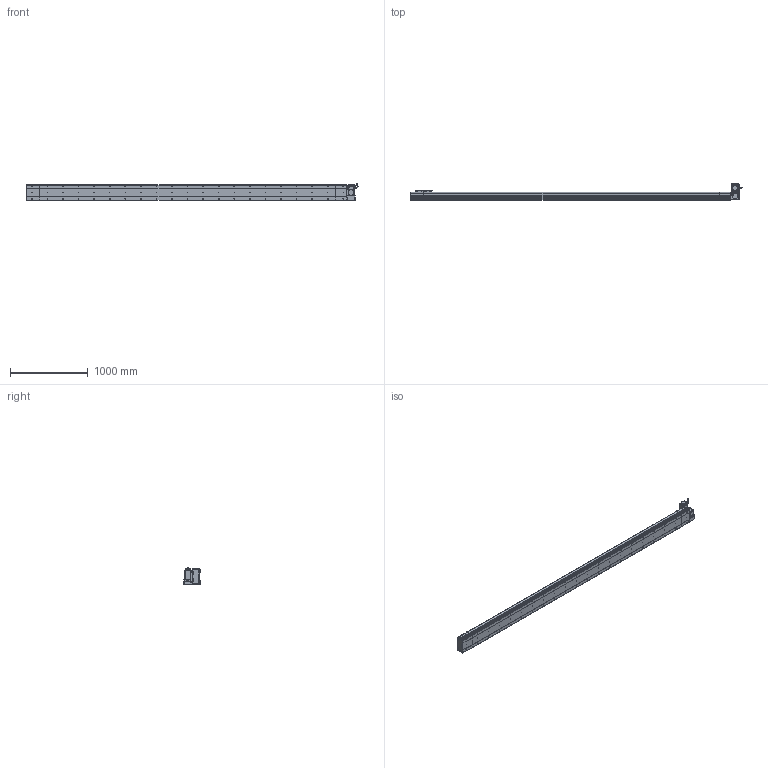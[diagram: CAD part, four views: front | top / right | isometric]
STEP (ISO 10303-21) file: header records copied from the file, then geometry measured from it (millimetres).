
FILE_DESCRIPTION (( 'STEP AP214' ), '1' );
FILE_NAME ('D20 CBH RT S3800.STEP', '2010-06-30T11:10:08', ( 'Conseil Régional Haute-Normandie' ), ( 'Conseil Régional Haute-Normandie' ), 'SwSTEP 2.0', 'SolidWorks 2010', '' );
FILE_SCHEMA (( 'AUTOMOTIVE_DESIGN' ));
Length unit declared in the file: millimetre
Products named in the file (31): Corp S3800_Default; Couvercle_Default; Chariot D20_Default; Support Chariot D20_Default; Couvercle S3800_Default; Rondelle Cache D20 RT_Default; Cache Support Moteur RT_Default; Corp D20 S3800_Default; vis M5 L47_Default; codeur 90BLDC125-640; Conecteur2_Default; Conecteur_Default; ecrou_Default; vis M5 L30_Default; Tail D20_Default; D20 CBH RT S3800; Corp Tail D20 RT_Default; Head RT_Default; Couvercle RT_Default; Plaque De Serrage D20 RT_Default; Plaque de Bout Head D20 RT_Default; Plaque de Bout Tail D20_Default; Plaque De Serrage D20_Default; vis M5 L15_Default; Moteur motionking 90BLDC125A-640; avant 90BLDC125A-640; Glissiere_Default; corps 90BLDC125A-640; Corp Tail D20_Default; Support moteur RT_Default
Assembly tree (68 placements, depth 4):
  D20 CBH RT S3800
    Chariot D20_Default
      vis M5 L15_Default  x8
      Chariot D20_Default
      Glissiere_Default
      Support Chariot D20_Default
    Tail D20_Default
      Plaque De Serrage D20_Default
      vis M5 L15_Default  x6
      Corp Tail D20_Default
      Plaque de Bout Tail D20_Default
      Couvercle_Default
    Corp D20 S3800_Default
      Corp S3800_Default
      Couvercle S3800_Default
    Head RT_Default
      Rondelle Cache D20 RT_Default  x3
      vis M5 L15_Default  x14
      vis M5 L47_Default  x4
      ecrou_Default  x4
      vis M5 L30_Default  x4
      Support moteur RT_Default
      Corp Tail D20 RT_Default
      Couvercle RT_Default
      Cache Support Moteur RT_Default
      Moteur motionking 90BLDC125A-640
        corps 90BLDC125A-640
        codeur 90BLDC125-640
        Conecteur2_Default
        Conecteur_Default
        avant 90BLDC125A-640
      Plaque De Serrage D20 RT_Default
      Plaque de Bout Head D20 RT_Default
Bounding box: 4264.45 x 206.5 x 229.7 mm (x, y, z)
Volume: 28296108 mm3; surface area: 5399688.2 mm2
Topology: 105 solids, 105 shells, 3898 faces, 9660 edges, 6274 vertices
Faces by surface type: plane 2155, bspline 806, cylinder 766, torus 95, cone 72, sphere 4
Entity records: 161582 total; most frequent: CARTESIAN_POINT 82664, ORIENTED_EDGE 15588, DIRECTION 12046, EDGE_CURVE 7794, VERTEX_POINT 5158, VECTOR 4990, LINE 4990, AXIS2_PLACEMENT_3D 3528
